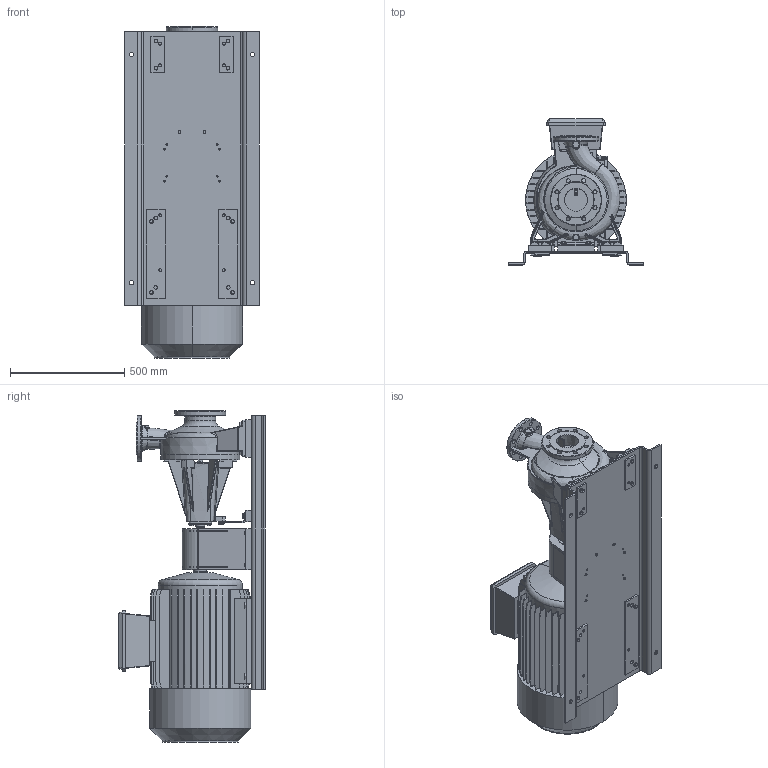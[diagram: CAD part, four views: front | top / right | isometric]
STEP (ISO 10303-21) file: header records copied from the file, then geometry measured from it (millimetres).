
FILE_DESCRIPTION((''),'2;1');
FILE_NAME('3PF_80-250_45_IE3_ASM','2015-04-22T',('rosa'),('"Ebara Pumps Europe +39.444.706811"'),'PRO/ENGINEER BY PARAMETRIC TECHNOLOGY CORPORATION, 2012130','PRO/ENGINEER BY PARAMETRIC TECHNOLOGY CORPORATION, 2012130','');
FILE_SCHEMA(('AUTOMOTIVE_DESIGN { 1 0 10303 214 1 1 1 1 }'));
Products named in the file (19): CORPO_POMPA_80-250; 80376; 80377; SOSTEGNO_SUPPORTO_3P_72161; 367617005; M12X30; 72186; APPOGGIO_72179_271472181; APPOGGIO_72179_271472182; GIUNTO_3P_32X55; APPOGGIO_72179_271472183; COPRIGIUNTO_73147; 360610012; VITE_8-8_TEIF_UNI5739-M16X065; VITE_8-8_TEIF_UNI5739-M12X045; VITE_8-8_TEIF_UNI5739-M08X040; MOTORE_225M_B3; VITE_8-8_TEIF_UNI5739-M16X045; 3PF_80-250_45_IE3_ASM
Assembly tree (35 placements, depth 2):
  3PF_80-250_45_IE3_ASM
    CORPO_POMPA_80-250
    80376
    80377
    SOSTEGNO_SUPPORTO_3P_72161
    367617005  x3
    M12X30
    72186
    APPOGGIO_72179_271472181  x2
    APPOGGIO_72179_271472182
    GIUNTO_3P_32X55
    APPOGGIO_72179_271472183  x2
    COPRIGIUNTO_73147
    360610012  x4
    VITE_8-8_TEIF_UNI5739-M16X065  x4
    VITE_8-8_TEIF_UNI5739-M12X045  x2
    VITE_8-8_TEIF_UNI5739-M08X040  x4
    MOTORE_225M_B3
    VITE_8-8_TEIF_UNI5739-M16X045  x4
Bounding box: 590 x 642 x 1455.5 mm (x, y, z)
Volume: 128359788 mm3; surface area: 6250367.3 mm2
Topology: 37 solids, 51 shells, 2076 faces, 5093 edges, 3183 vertices
Faces by surface type: plane 921, cylinder 550, bspline 271, cone 172, torus 134, sphere 28
Entity records: 86596 total; most frequent: CARTESIAN_POINT 27377, ORIENTED_EDGE 8994, DIRECTION 8359, EDGE_CURVE 4505, PRESENTATION_STYLE_ASSIGNMENT 4428, STYLED_ITEM 4428, CURVE_STYLE 4409, AXIS2_PLACEMENT_3D 3065
